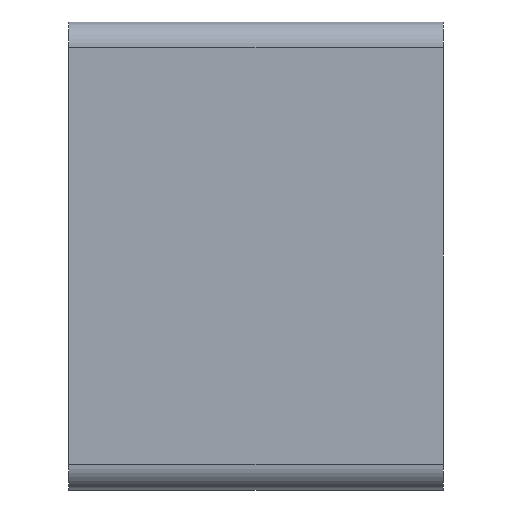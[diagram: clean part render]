
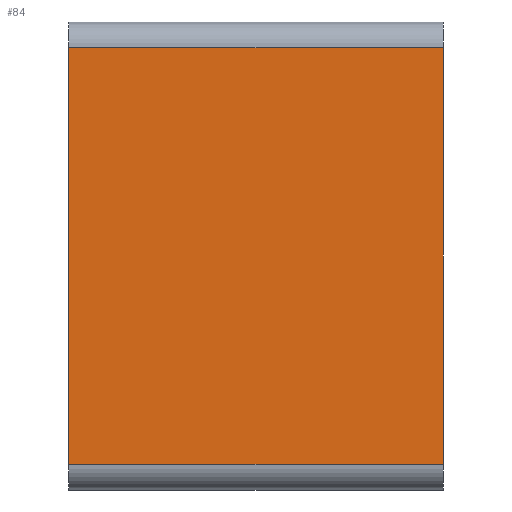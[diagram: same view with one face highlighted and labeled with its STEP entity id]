
A CAD part, front view. The second image highlights one B-rep face of the part: STEP entity #84.
In plain terms, the highlighted planar face has unit normal (0, -1, 0).
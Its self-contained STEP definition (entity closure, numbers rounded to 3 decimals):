
#84 = ADVANCED_FACE( '', ( #146 ), #147, .F. );
#146 = FACE_OUTER_BOUND( '', #260, .T. );
#147 = PLANE( '', #261 );
#260 = EDGE_LOOP( '', ( #443, #444, #445, #446 ) );
#261 = AXIS2_PLACEMENT_3D( '', #447, #448, #449 );
#443 = ORIENTED_EDGE( '', *, *, #840, .T. );
#444 = ORIENTED_EDGE( '', *, *, #841, .F. );
#445 = ORIENTED_EDGE( '', *, *, #842, .F. );
#446 = ORIENTED_EDGE( '', *, *, #843, .T. );
#447 = CARTESIAN_POINT( '', ( 0., 0., 13.85 ) );
#448 = DIRECTION( '', ( 0., 1., 0. ) );
#449 = DIRECTION( '', ( 0., 0., 1. ) );
#840 = EDGE_CURVE( '', #1025, #1026, #1027, .T. );
#841 = EDGE_CURVE( '', #1028, #1026, #1029, .T. );
#842 = EDGE_CURVE( '', #1030, #1028, #1031, .T. );
#843 = EDGE_CURVE( '', #1030, #1025, #1032, .T. );
#1025 = VERTEX_POINT( '', #1309 );
#1026 = VERTEX_POINT( '', #1310 );
#1027 = LINE( '', #1311, #1312 );
#1028 = VERTEX_POINT( '', #1313 );
#1029 = LINE( '', #1314, #1315 );
#1030 = VERTEX_POINT( '', #1316 );
#1031 = LINE( '', #1317, #1318 );
#1032 = LINE( '', #1319, #1320 );
#1309 = CARTESIAN_POINT( '', ( 0., 0., 12.25 ) );
#1310 = CARTESIAN_POINT( '', ( 0., 0., -12.25 ) );
#1311 = CARTESIAN_POINT( '', ( 0., 0., 13.85 ) );
#1312 = VECTOR( '', #1585, 1000. );
#1313 = CARTESIAN_POINT( '', ( 22., 0., -12.25 ) );
#1314 = CARTESIAN_POINT( '', ( 30., 0., -12.25 ) );
#1315 = VECTOR( '', #1586, 1000. );
#1316 = CARTESIAN_POINT( '', ( 22., 0., 12.25 ) );
#1317 = CARTESIAN_POINT( '', ( 22., 0., 13.85 ) );
#1318 = VECTOR( '', #1587, 1000. );
#1319 = CARTESIAN_POINT( '', ( 30., 0., 12.25 ) );
#1320 = VECTOR( '', #1588, 1000. );
#1585 = DIRECTION( '', ( 0., 0., -1. ) );
#1586 = DIRECTION( '', ( -1., 0., 0. ) );
#1587 = DIRECTION( '', ( 0., 0., -1. ) );
#1588 = DIRECTION( '', ( -1., 0., 0. ) );
